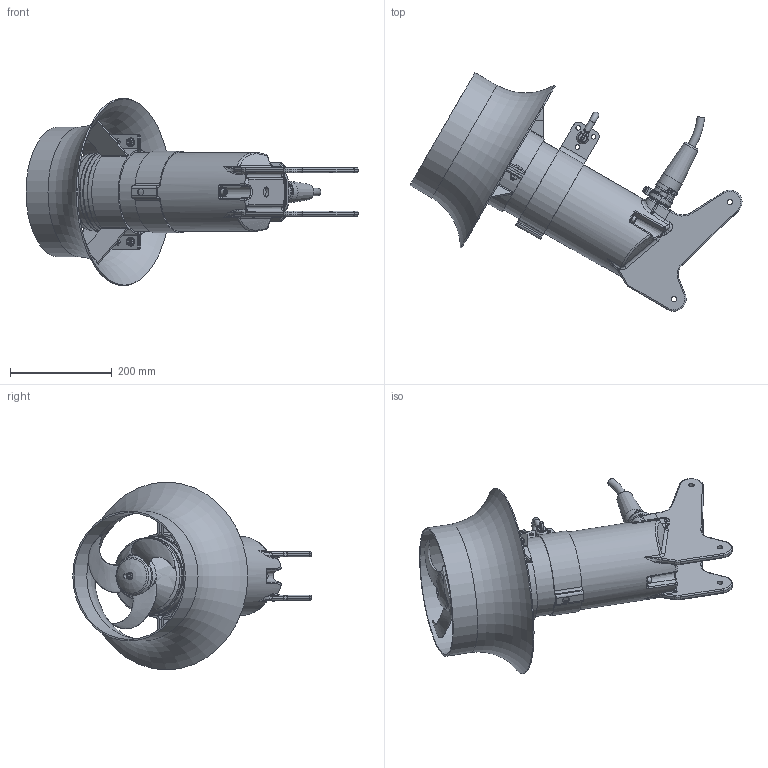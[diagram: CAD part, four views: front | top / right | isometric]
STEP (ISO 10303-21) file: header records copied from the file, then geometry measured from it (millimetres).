
FILE_DESCRIPTION (( 'STEP AP203' ), '1' );
FILE_NAME ('XRW 210 With Flow Ring.STEP', '2018-01-09T08:28:29', ( '' ), ( '' ), 'SwSTEP 2.0', 'SolidWorks 2017', '' );
FILE_SCHEMA (( 'CONFIG_CONTROL_DESIGN' ));
Length unit declared in the file: inch
Products named in the file (2): XRW 210 With Flow Ring
Bounding box: 653.92 x 469.69 x 370 mm (x, y, z)
Volume: 9532202.2 mm3; surface area: 853635.4 mm2
Topology: 11 solids, 20 shells, 1551 faces, 3732 edges, 2215 vertices
Faces by surface type: plane 584, cylinder 457, bspline 367, torus 115, cone 20, sphere 8
Full cylindrical faces by diameter (mm): 2.9 x2, 3 x1, 3.2 x2, 5.3 x1, 6 x3, 6.6 x1, 7 x4, 8 x14, 8.4 x6, 9 x17, 10.2 x1, 10.5 x4, 11.5 x2, 11.6 x5, 11.7 x4, 12 x6, 12.2 x3, 13 x5, 13.5 x1, 15 x3, 16 x5, 17 x3, 17.9 x1, 18.2 x2, 20 x1, 23.7 x2, 41.5 x2, 43 x2, 150 x1, 153.8 x1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
Entity records: 65511 total; most frequent: CARTESIAN_POINT 33291, ORIENTED_EDGE 6830, DIRECTION 6104, EDGE_CURVE 3415, AXIS2_PLACEMENT_3D 2337, VERTEX_POINT 2137, EDGE_LOOP 1882, FACE_OUTER_BOUND 1694
